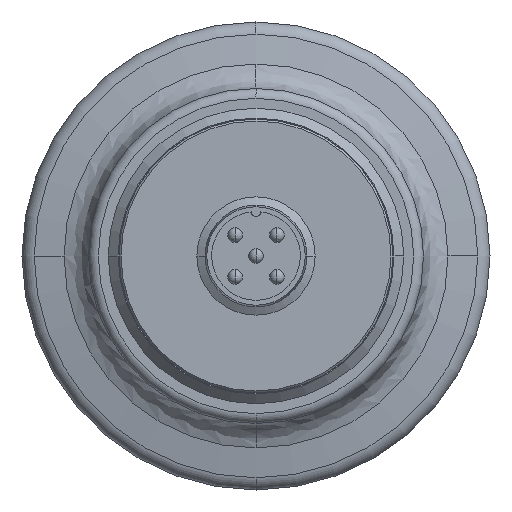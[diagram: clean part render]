
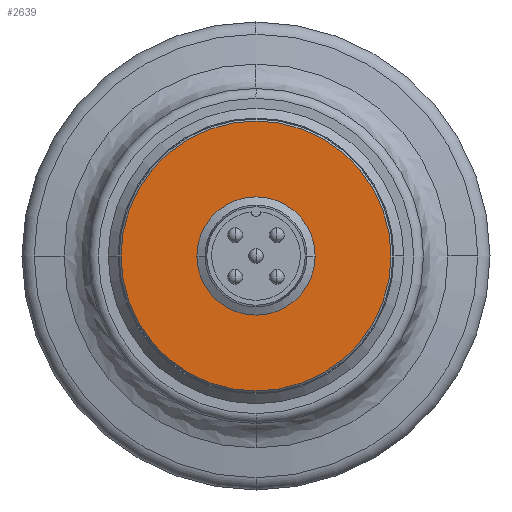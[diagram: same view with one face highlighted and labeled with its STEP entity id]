
A CAD part, left-side view. The second image highlights one B-rep face of the part: STEP entity #2639.
In plain terms, the highlighted planar face has unit normal (-1, 0, 0).
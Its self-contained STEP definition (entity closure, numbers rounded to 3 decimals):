
#207=CARTESIAN_POINT('',(-83.5,13.7,0.0));
#208=VERTEX_POINT('',#207);
#215=CARTESIAN_POINT('',(-83.5,-13.7,0.));
#216=VERTEX_POINT('',#215);
#217=CARTESIAN_POINT('',(-83.5,0.,0.0));
#218=DIRECTION('',(1.0,0.0,0.0));
#219=DIRECTION('',(0.0,1.0,0.0));
#220=AXIS2_PLACEMENT_3D('',#217,#218,#219);
#221=CIRCLE('',#220,13.7);
#222=EDGE_CURVE('',#208,#216,#221,.T.);
#289=CARTESIAN_POINT('',(-83.5,0.,5.7));
#290=VERTEX_POINT('',#289);
#316=CARTESIAN_POINT('',(-83.5,0.,-5.7));
#317=VERTEX_POINT('',#316);
#325=CARTESIAN_POINT('',(-83.5,0.,0.0));
#326=DIRECTION('',(1.0,0.0,0.0));
#327=DIRECTION('',(0.0,1.0,0.0));
#328=AXIS2_PLACEMENT_3D('',#325,#326,#327);
#329=CIRCLE('',#328,5.7);
#330=EDGE_CURVE('',#290,#317,#329,.T.);
#2597=CARTESIAN_POINT('',(-83.5,5.7,0.0));
#2598=VERTEX_POINT('',#2597);
#2599=CARTESIAN_POINT('',(-83.5,0.,0.0));
#2600=DIRECTION('',(1.0,0.0,0.0));
#2601=DIRECTION('',(0.0,1.0,0.0));
#2602=AXIS2_PLACEMENT_3D('',#2599,#2600,#2601);
#2603=CIRCLE('',#2602,5.7);
#2604=EDGE_CURVE('',#2598,#290,#2603,.T.);
#2606=CARTESIAN_POINT('',(-83.5,0.,0.0));
#2607=DIRECTION('',(1.0,0.0,0.0));
#2608=DIRECTION('',(0.0,1.0,0.0));
#2609=AXIS2_PLACEMENT_3D('',#2606,#2607,#2608);
#2610=CIRCLE('',#2609,5.7);
#2611=EDGE_CURVE('',#317,#2598,#2610,.T.);
#2619=CARTESIAN_POINT('',(-83.5,9.7,0.0));
#2620=DIRECTION('',(-1.0,0.0,0.0));
#2621=DIRECTION('',(0.0,0.0,1.0));
#2622=AXIS2_PLACEMENT_3D('',#2619,#2620,#2621);
#2623=PLANE('',#2622);
#2624=ORIENTED_EDGE('',*,*,#222,.F.);
#2625=CARTESIAN_POINT('',(-83.5,0.,0.0));
#2626=DIRECTION('',(1.0,0.0,0.0));
#2627=DIRECTION('',(0.0,1.0,0.0));
#2628=AXIS2_PLACEMENT_3D('',#2625,#2626,#2627);
#2629=CIRCLE('',#2628,13.7);
#2630=EDGE_CURVE('',#216,#208,#2629,.T.);
#2631=ORIENTED_EDGE('',*,*,#2630,.F.);
#2632=EDGE_LOOP('',(#2624,#2631));
#2633=FACE_OUTER_BOUND('',#2632,.T.);
#2634=ORIENTED_EDGE('',*,*,#2604,.T.);
#2635=ORIENTED_EDGE('',*,*,#330,.T.);
#2636=ORIENTED_EDGE('',*,*,#2611,.T.);
#2637=EDGE_LOOP('',(#2634,#2635,#2636));
#2638=FACE_BOUND('',#2637,.T.);
#2639=ADVANCED_FACE('',(#2633,#2638),#2623,.T.);
